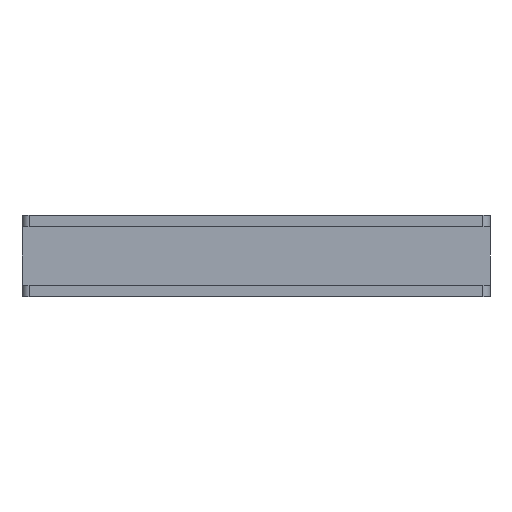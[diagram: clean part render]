
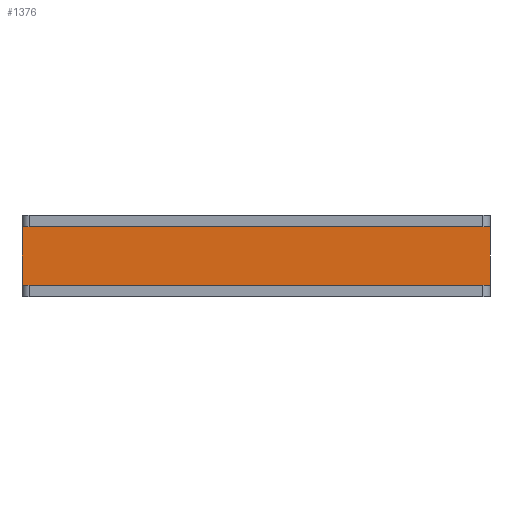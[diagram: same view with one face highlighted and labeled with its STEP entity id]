
A CAD part, left-side view. The second image highlights one B-rep face of the part: STEP entity #1376.
In plain terms, the highlighted planar face has unit normal (-1, 0, 0).
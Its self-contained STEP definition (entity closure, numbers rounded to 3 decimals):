
#66 = PLANE('',#67);
#67 = AXIS2_PLACEMENT_3D('',#68,#69,#70);
#68 = CARTESIAN_POINT('',(-20.,-40.,2.));
#69 = DIRECTION('',(0.,0.,1.));
#70 = DIRECTION('',(1.,0.,0.));
#189 = VERTEX_POINT('',#190);
#190 = CARTESIAN_POINT('',(-14.,-40.,2.));
#204 = PLANE('',#205);
#205 = AXIS2_PLACEMENT_3D('',#206,#207,#208);
#206 = CARTESIAN_POINT('',(-20.,-40.,0.));
#207 = DIRECTION('',(0.,1.,0.));
#208 = DIRECTION('',(0.,0.,1.));
#216 = EDGE_CURVE('',#189,#217,#219,.T.);
#217 = VERTEX_POINT('',#218);
#218 = CARTESIAN_POINT('',(-14.,40.,2.));
#219 = SURFACE_CURVE('',#220,(#224,#230),.PCURVE_S1.);
#220 = LINE('',#221,#222);
#221 = CARTESIAN_POINT('',(-14.,-40.,2.));
#222 = VECTOR('',#223,1.);
#223 = DIRECTION('',(0.,1.,0.));
#224 = PCURVE('',#66,#225);
#225 = DEFINITIONAL_REPRESENTATION('',(#226),#229);
#226 = B_SPLINE_CURVE_WITH_KNOTS('',1,(#227,#228),.UNSPECIFIED.,.F.,.F.,
  (2,2),(0.,80.),.PIECEWISE_BEZIER_KNOTS.);
#227 = CARTESIAN_POINT('',(6.,0.));
#228 = CARTESIAN_POINT('',(6.,80.));
#229 = ( GEOMETRIC_REPRESENTATION_CONTEXT(2) 
PARAMETRIC_REPRESENTATION_CONTEXT() REPRESENTATION_CONTEXT('2D SPACE',''
  ) );
#230 = PCURVE('',#231,#236);
#231 = PLANE('',#232);
#232 = AXIS2_PLACEMENT_3D('',#233,#234,#235);
#233 = CARTESIAN_POINT('',(-14.,-40.,0.));
#234 = DIRECTION('',(1.,0.,0.));
#235 = DIRECTION('',(0.,0.,1.));
#236 = DEFINITIONAL_REPRESENTATION('',(#237),#240);
#237 = B_SPLINE_CURVE_WITH_KNOTS('',1,(#238,#239),.UNSPECIFIED.,.F.,.F.,
  (2,2),(0.,80.),.PIECEWISE_BEZIER_KNOTS.);
#238 = CARTESIAN_POINT('',(2.,0.));
#239 = CARTESIAN_POINT('',(2.,-80.));
#240 = ( GEOMETRIC_REPRESENTATION_CONTEXT(2) 
PARAMETRIC_REPRESENTATION_CONTEXT() REPRESENTATION_CONTEXT('2D SPACE',''
  ) );
#258 = PLANE('',#259);
#259 = AXIS2_PLACEMENT_3D('',#260,#261,#262);
#260 = CARTESIAN_POINT('',(-20.,40.,0.));
#261 = DIRECTION('',(0.,1.,0.));
#262 = DIRECTION('',(0.,0.,1.));
#729 = EDGE_CURVE('',#189,#730,#732,.T.);
#730 = VERTEX_POINT('',#731);
#731 = CARTESIAN_POINT('',(-14.,-40.,12.));
#732 = SURFACE_CURVE('',#733,(#737,#744),.PCURVE_S1.);
#733 = LINE('',#734,#735);
#734 = CARTESIAN_POINT('',(-14.,-40.,0.));
#735 = VECTOR('',#736,1.);
#736 = DIRECTION('',(0.,0.,1.));
#737 = PCURVE('',#204,#738);
#738 = DEFINITIONAL_REPRESENTATION('',(#739),#743);
#739 = LINE('',#740,#741);
#740 = CARTESIAN_POINT('',(0.,6.));
#741 = VECTOR('',#742,1.);
#742 = DIRECTION('',(1.,0.));
#743 = ( GEOMETRIC_REPRESENTATION_CONTEXT(2) 
PARAMETRIC_REPRESENTATION_CONTEXT() REPRESENTATION_CONTEXT('2D SPACE',''
  ) );
#744 = PCURVE('',#231,#745);
#745 = DEFINITIONAL_REPRESENTATION('',(#746),#750);
#746 = LINE('',#747,#748);
#747 = CARTESIAN_POINT('',(0.,0.));
#748 = VECTOR('',#749,1.);
#749 = DIRECTION('',(1.,0.));
#750 = ( GEOMETRIC_REPRESENTATION_CONTEXT(2) 
PARAMETRIC_REPRESENTATION_CONTEXT() REPRESENTATION_CONTEXT('2D SPACE',''
  ) );
#768 = PLANE('',#769);
#769 = AXIS2_PLACEMENT_3D('',#770,#771,#772);
#770 = CARTESIAN_POINT('',(-14.,-40.,12.));
#771 = DIRECTION('',(0.,0.,1.));
#772 = DIRECTION('',(1.,0.,0.));
#1084 = EDGE_CURVE('',#217,#1085,#1087,.T.);
#1085 = VERTEX_POINT('',#1086);
#1086 = CARTESIAN_POINT('',(-14.,40.,12.));
#1087 = SURFACE_CURVE('',#1088,(#1092,#1099),.PCURVE_S1.);
#1088 = LINE('',#1089,#1090);
#1089 = CARTESIAN_POINT('',(-14.,40.,0.));
#1090 = VECTOR('',#1091,1.);
#1091 = DIRECTION('',(0.,0.,1.));
#1092 = PCURVE('',#258,#1093);
#1093 = DEFINITIONAL_REPRESENTATION('',(#1094),#1098);
#1094 = LINE('',#1095,#1096);
#1095 = CARTESIAN_POINT('',(0.,6.));
#1096 = VECTOR('',#1097,1.);
#1097 = DIRECTION('',(1.,0.));
#1098 = ( GEOMETRIC_REPRESENTATION_CONTEXT(2) 
PARAMETRIC_REPRESENTATION_CONTEXT() REPRESENTATION_CONTEXT('2D SPACE',''
  ) );
#1099 = PCURVE('',#231,#1100);
#1100 = DEFINITIONAL_REPRESENTATION('',(#1101),#1105);
#1101 = LINE('',#1102,#1103);
#1102 = CARTESIAN_POINT('',(0.,-80.));
#1103 = VECTOR('',#1104,1.);
#1104 = DIRECTION('',(1.,0.));
#1105 = ( GEOMETRIC_REPRESENTATION_CONTEXT(2) 
PARAMETRIC_REPRESENTATION_CONTEXT() REPRESENTATION_CONTEXT('2D SPACE',''
  ) );
#1376 = ADVANCED_FACE('',(#1377),#231,.F.);
#1377 = FACE_BOUND('',#1378,.F.);
#1378 = EDGE_LOOP('',(#1379,#1380,#1381,#1382));
#1379 = ORIENTED_EDGE('',*,*,#729,.F.);
#1380 = ORIENTED_EDGE('',*,*,#216,.T.);
#1381 = ORIENTED_EDGE('',*,*,#1084,.T.);
#1382 = ORIENTED_EDGE('',*,*,#1383,.F.);
#1383 = EDGE_CURVE('',#730,#1085,#1384,.T.);
#1384 = SURFACE_CURVE('',#1385,(#1389,#1396),.PCURVE_S1.);
#1385 = LINE('',#1386,#1387);
#1386 = CARTESIAN_POINT('',(-14.,-40.,12.));
#1387 = VECTOR('',#1388,1.);
#1388 = DIRECTION('',(0.,1.,0.));
#1389 = PCURVE('',#231,#1390);
#1390 = DEFINITIONAL_REPRESENTATION('',(#1391),#1395);
#1391 = LINE('',#1392,#1393);
#1392 = CARTESIAN_POINT('',(12.,0.));
#1393 = VECTOR('',#1394,1.);
#1394 = DIRECTION('',(0.,-1.));
#1395 = ( GEOMETRIC_REPRESENTATION_CONTEXT(2) 
PARAMETRIC_REPRESENTATION_CONTEXT() REPRESENTATION_CONTEXT('2D SPACE',''
  ) );
#1396 = PCURVE('',#768,#1397);
#1397 = DEFINITIONAL_REPRESENTATION('',(#1398),#1402);
#1398 = LINE('',#1399,#1400);
#1399 = CARTESIAN_POINT('',(0.,0.));
#1400 = VECTOR('',#1401,1.);
#1401 = DIRECTION('',(0.,1.));
#1402 = ( GEOMETRIC_REPRESENTATION_CONTEXT(2) 
PARAMETRIC_REPRESENTATION_CONTEXT() REPRESENTATION_CONTEXT('2D SPACE',''
  ) );
